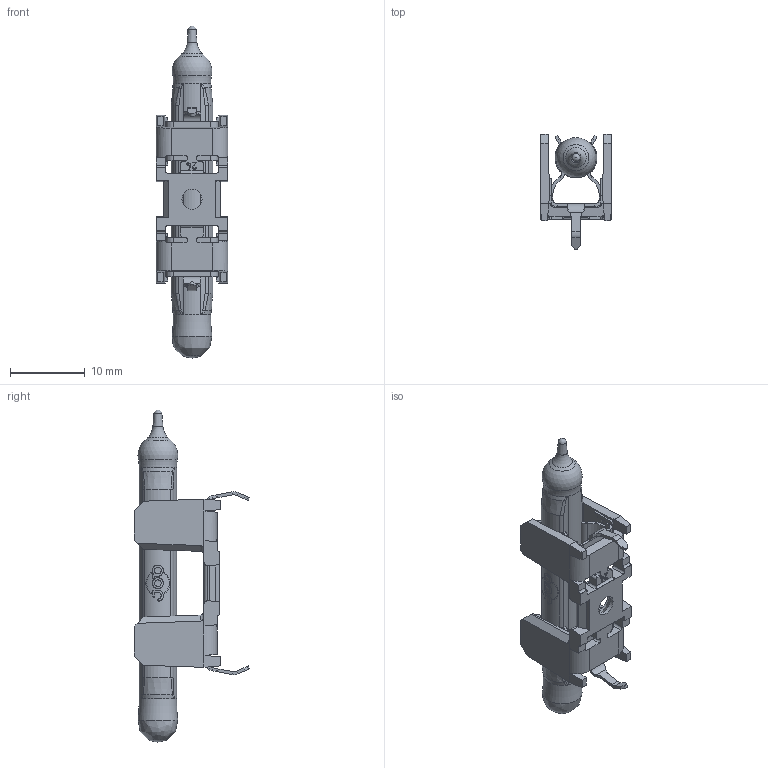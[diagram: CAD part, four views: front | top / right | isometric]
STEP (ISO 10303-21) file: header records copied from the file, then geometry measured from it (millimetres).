
FILE_DESCRIPTION(/* description */ (''),/* implementation_level */ '2;1');
FILE_NAME(/* name */ 'N:\KONSTR\PROJEKTE\E-Bulb\E-Bulb Freigegebene Kunden Zeichnungen\Zusammenbau Zeichnungen\E-Bulb 5x40 THT\40-068-54-260-E-Bulb-5x40-THT.stp',/* time_stamp */ '2020-01-17T10:14:20+01:00',/* author */ ('lessling'),/* organization */ (''),/* preprocessor_version */ 'ST-DEVELOPER v17.2',/* originating_system */ 'Autodesk Inventor 2019',/* authorisation */ '');
FILE_SCHEMA (('AUTOMOTIVE_DESIGN { 1 0 10303 214 3 1 1 }'));
Length unit declared in the file: millimetre
Products named in the file (3): 40-068-54-260; 40-068-10-20; 40-068-54-50
Assembly tree (2 placements, depth 2):
  40-068-54-260
    40-068-10-20
    40-068-54-50
Bounding box: 9.6 x 15.39 x 44.4 mm (x, y, z)
Volume: 1468.3 mm3; surface area: 2351.6 mm2
Topology: 4 solids, 4 shells, 618 faces, 1618 edges, 1011 vertices
Faces by surface type: plane 390, cylinder 137, bspline 75, cone 11, torus 3, sphere 2
Full cylindrical faces by diameter (mm): 2.7 x1, 5.2 x1
Entity records: 21434 total; most frequent: CARTESIAN_POINT 6133, ORIENTED_EDGE 3236, DIRECTION 2829, EDGE_CURVE 1618, LINE 1095, VECTOR 1095, VERTEX_POINT 1011, AXIS2_PLACEMENT_3D 867
